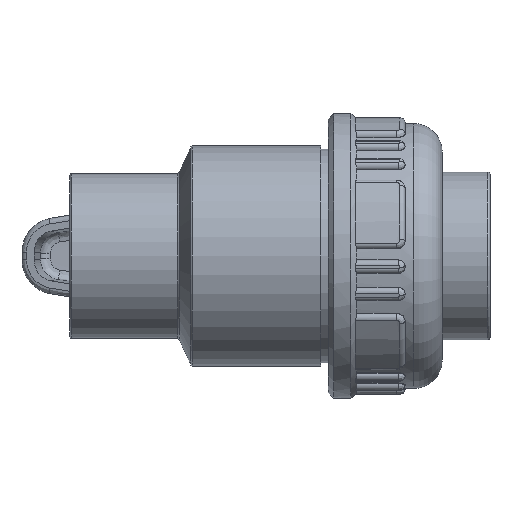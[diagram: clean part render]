
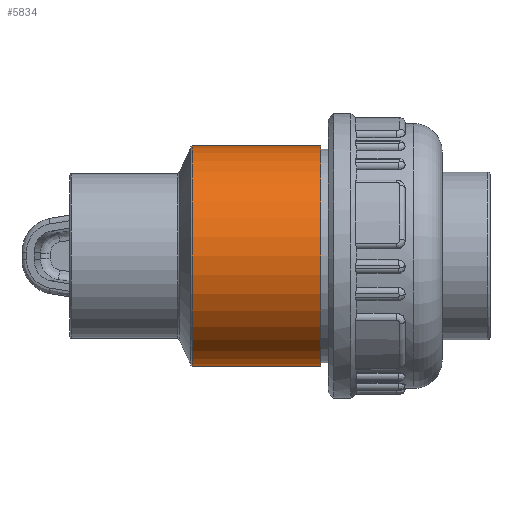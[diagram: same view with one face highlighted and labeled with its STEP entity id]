
A CAD part, left-side view. The second image highlights one B-rep face of the part: STEP entity #5834.
In plain terms, the highlighted cylindrical face has radius 19.3 mm (diameter 38.6 mm), a full revolution.
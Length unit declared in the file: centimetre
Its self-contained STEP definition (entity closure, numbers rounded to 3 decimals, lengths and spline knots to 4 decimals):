
#214=CYLINDRICAL_SURFACE('',#6260,1.93);
#302=FACE_BOUND('',#1081,.T.);
#303=FACE_BOUND('',#1082,.T.);
#396=CIRCLE('',#6261,1.93);
#397=CIRCLE('',#6262,1.93);
#721=FACE_OUTER_BOUND('',#1080,.T.);
#1080=EDGE_LOOP('',(#4020));
#1081=EDGE_LOOP('',(#4021));
#1082=EDGE_LOOP('',(#4022));
#2053=B_SPLINE_CURVE_WITH_KNOTS('',3,(#9528,#9529,#9530,#9531,#9532,#9533,
#9534,#9535,#9536,#9537,#9538,#9539,#9540,#9541,#9542,#9543,#9544,#9545,
#9546),.UNSPECIFIED.,.T.,.F.,(4,1,1,1,1,1,1,1,1,1,1,1,1,1,1,1,4),(-5.8386,
-5.4215,-5.0045,-4.5875,-4.1704,
-3.6144,-3.4754,-3.3363,-3.0583,
-2.7803,-2.5023,-2.0852,-1.6682,
-1.2511,-0.8341,-0.417,0.),
 .UNSPECIFIED.);
#2353=VERTEX_POINT('',#9506);
#2364=VERTEX_POINT('',#9576);
#2365=VERTEX_POINT('',#9578);
#2967=EDGE_CURVE('',#2353,#2353,#2053,.T.);
#2978=EDGE_CURVE('',#2364,#2364,#396,.T.);
#2979=EDGE_CURVE('',#2365,#2365,#397,.T.);
#4020=ORIENTED_EDGE('',*,*,#2978,.F.);
#4021=ORIENTED_EDGE('',*,*,#2979,.T.);
#4022=ORIENTED_EDGE('',*,*,#2967,.F.);
#5834=ADVANCED_FACE('',(#721,#302,#303),#214,.T.);
#6260=AXIS2_PLACEMENT_3D('',#9575,#7096,#7097);
#6261=AXIS2_PLACEMENT_3D('',#9577,#7098,#7099);
#6262=AXIS2_PLACEMENT_3D('',#9579,#7100,#7101);
#7096=DIRECTION('center_axis',(0.,1.,0.));
#7097=DIRECTION('ref_axis',(-1.,0.,0.));
#7098=DIRECTION('center_axis',(0.,1.,0.));
#7099=DIRECTION('ref_axis',(1.,0.,0.));
#7100=DIRECTION('center_axis',(0.,1.,0.));
#7101=DIRECTION('ref_axis',(1.,0.,0.));
#9506=CARTESIAN_POINT('',(1.6714,0.,0.965));
#9528=CARTESIAN_POINT('Ctrl Pts',(1.6712,0.,
0.9651));
#9529=CARTESIAN_POINT('Ctrl Pts',(1.6712,-0.1487,0.9652));
#9530=CARTESIAN_POINT('Ctrl Pts',(1.7139,-0.4463,0.8956));
#9531=CARTESIAN_POINT('Ctrl Pts',(1.8379,-0.788,0.6244));
#9532=CARTESIAN_POINT('Ctrl Pts',(1.9336,-0.9883,0.2282));
#9533=CARTESIAN_POINT('Ctrl Pts',(1.9341,-0.9878,-0.2791));
#9534=CARTESIAN_POINT('Ctrl Pts',(1.8338,-0.7814,-0.6219));
#9535=CARTESIAN_POINT('Ctrl Pts',(1.7576,-0.556,-0.7988));
#9536=CARTESIAN_POINT('Ctrl Pts',(1.7112,-0.3885,-0.895));
#9537=CARTESIAN_POINT('Ctrl Pts',(1.6694,-0.1516,-0.9686));
#9538=CARTESIAN_POINT('Ctrl Pts',(1.6694,0.1516,-0.9687));
#9539=CARTESIAN_POINT('Ctrl Pts',(1.728,0.4834,-0.8653));
#9540=CARTESIAN_POINT('Ctrl Pts',(1.8377,0.7885,-0.6246));
#9541=CARTESIAN_POINT('Ctrl Pts',(1.9338,0.9879,-0.2282));
#9542=CARTESIAN_POINT('Ctrl Pts',(1.9336,0.9881,0.2281));
#9543=CARTESIAN_POINT('Ctrl Pts',(1.8379,0.7881,0.6247));
#9544=CARTESIAN_POINT('Ctrl Pts',(1.7139,0.4462,0.8955));
#9545=CARTESIAN_POINT('Ctrl Pts',(1.6712,0.1488,0.9651));
#9546=CARTESIAN_POINT('Ctrl Pts',(1.6712,0.,
0.9651));
#9575=CARTESIAN_POINT('Origin',(0.,0.105,
0.));
#9576=CARTESIAN_POINT('',(-1.93,1.2207,0.));
#9577=CARTESIAN_POINT('Origin',(0.,1.2207,0.));
#9578=CARTESIAN_POINT('',(-1.93,-1.03,0.));
#9579=CARTESIAN_POINT('Origin',(0.,-1.03,0.));
